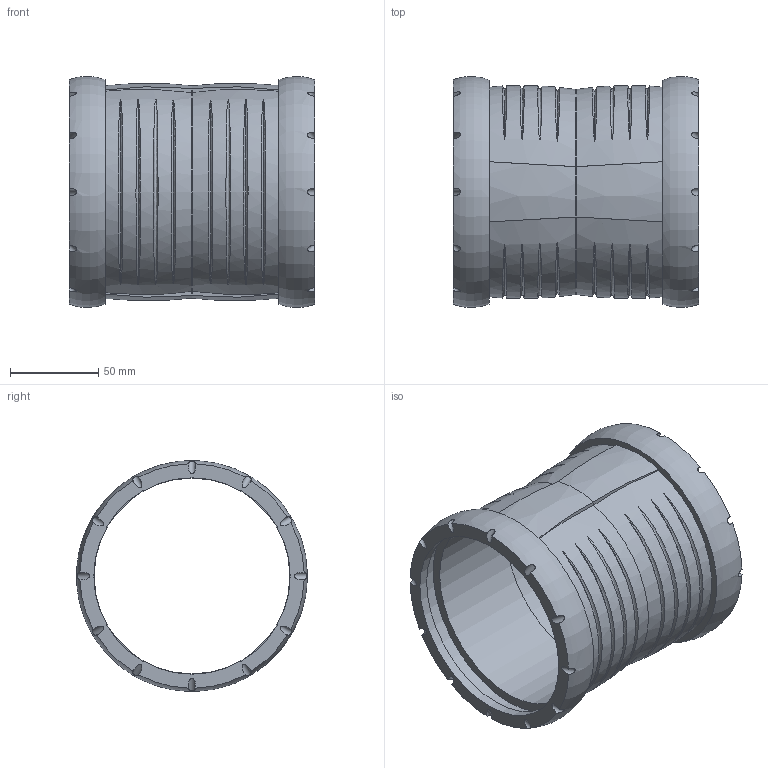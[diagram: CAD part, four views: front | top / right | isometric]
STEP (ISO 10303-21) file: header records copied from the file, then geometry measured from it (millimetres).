
FILE_DESCRIPTION(/* description */ (''),/* implementation_level */ '2;1');
FILE_NAME(/* name */ 'H:\Geberit-Teile\Export\Doppelsteckmuffe\stp\393517.stp',/* time_stamp */ '2017-02-14T08:57:47+01:00',/* author */ ('seihe2'),/* organization */ (''),/* preprocessor_version */ 'ST-DEVELOPER v15.2',/* originating_system */ 'Autodesk Inventor 2014',/* authorisation */ '');
FILE_SCHEMA (('AUTOMOTIVE_DESIGN { 1 0 10303 214 3 1 1 }'));
Length unit declared in the file: millimetre
Products named in the file (1): 393517
Bounding box: 139 x 130.87 x 130.91 mm (x, y, z)
Volume: 262116.2 mm3; surface area: 125027.7 mm2
Topology: 2 solids, 2 shells, 86 faces, 216 edges, 156 vertices
Faces by surface type: bspline 44, cylinder 30, plane 10, torus 2
Full cylindrical faces by diameter (mm): 111 x2, 111.3 x2, 121.5 x2
Entity records: 7093 total; most frequent: CARTESIAN_POINT 5263, ORIENTED_EDGE 404, DIRECTION 250, EDGE_CURVE 202, VERTEX_POINT 150, AXIS2_PLACEMENT_3D 125, B_SPLINE_CURVE_WITH_KNOTS 120, EDGE_LOOP 120
